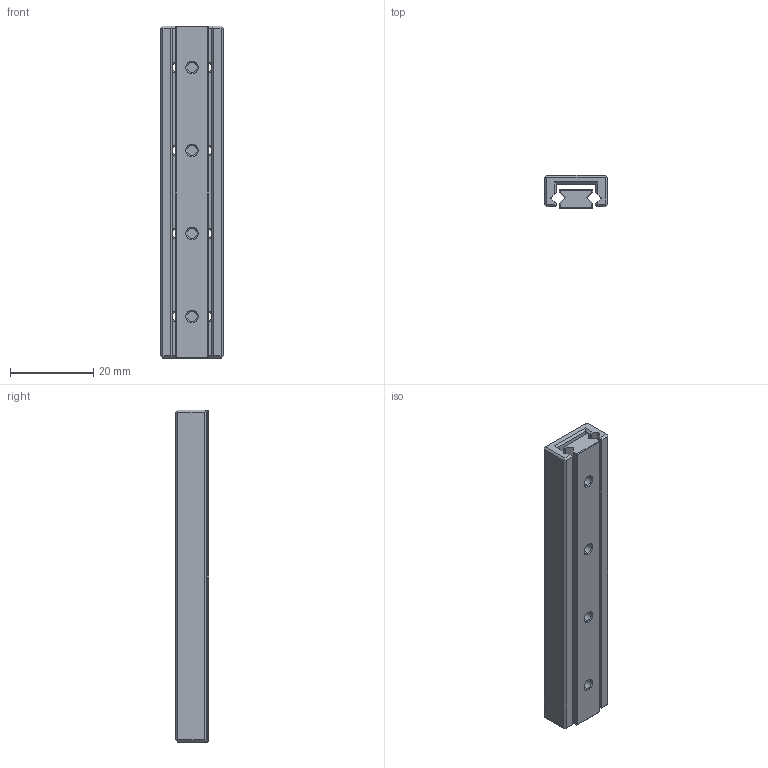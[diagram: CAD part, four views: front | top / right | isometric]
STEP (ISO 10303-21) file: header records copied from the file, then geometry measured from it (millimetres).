
FILE_DESCRIPTION (( 'STEP AP214' ), '1' );
FILE_NAME ('PMM 2-80.STEP', '2012-03-02T11:44:23', ( '' ), ( '' ), 'SwSTEP 2.0', 'SolidWorks 2011', '' );
FILE_SCHEMA (( 'AUTOMOTIVE_DESIGN' ));
Length unit declared in the file: millimetre
Products named in the file (1): PMM 2-80
Bounding box: 15 x 8 x 80 mm (x, y, z)
Volume: 6929.3 mm3; surface area: 6941 mm2
Topology: 2 solids, 2 shells, 292 faces, 820 edges, 540 vertices
Faces by surface type: plane 174, cone 48, bspline 43, cylinder 27
Entity records: 13329 total; most frequent: CARTESIAN_POINT 4320, ORIENTED_EDGE 1640, DIRECTION 1368, EDGE_CURVE 820, LINE 584, VECTOR 584, VERTEX_POINT 540, AXIS2_PLACEMENT_3D 392
